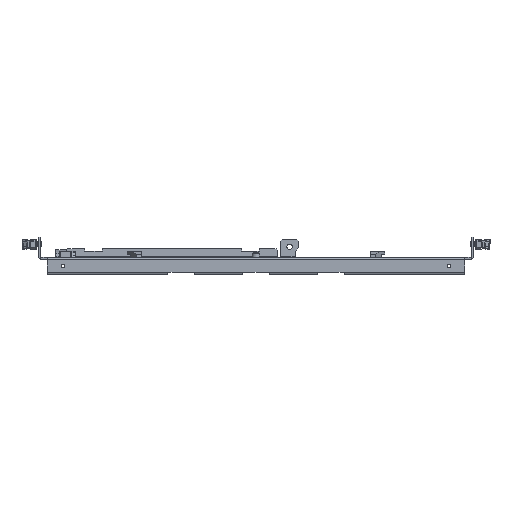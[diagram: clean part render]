
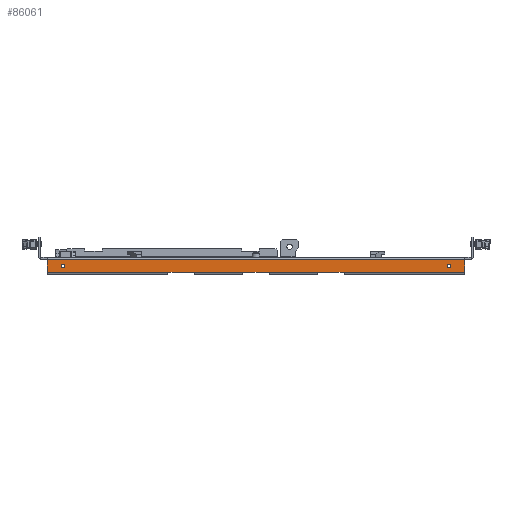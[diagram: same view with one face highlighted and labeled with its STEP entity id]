
A CAD part, front view. The second image highlights one B-rep face of the part: STEP entity #86061.
In plain terms, the highlighted planar face has unit normal (0, -1, 0).
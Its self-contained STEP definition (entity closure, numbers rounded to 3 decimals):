
#43836=CARTESIAN_POINT(' ',(239.5,-211.7,-2.6));
#43837=VERTEX_POINT(' ',#43836);
#43851=CARTESIAN_POINT(' ',(239.5,-211.7,-17.4));
#43856=DIRECTION(' ',(0.,0.,1.));
#43861=VECTOR(' ',#43856,1.);
#43866=LINE('',#43851,#43861);
#43871=CARTESIAN_POINT(' ',(239.5,-211.7,-17.4));
#43872=VERTEX_POINT(' ',#43871);
#43876=EDGE_CURVE(' ',#43872,#43837,#43866,.T.);
#44516=CARTESIAN_POINT(' ',(-239.5,-211.7,-17.4));
#44517=VERTEX_POINT(' ',#44516);
#44531=CARTESIAN_POINT(' ',(-239.5,-211.7,-2.6));
#44536=DIRECTION(' ',(0.,0.,-1.));
#44541=VECTOR(' ',#44536,1.);
#44546=LINE('',#44531,#44541);
#44551=CARTESIAN_POINT(' ',(-239.5,-211.7,-2.6));
#44552=VERTEX_POINT(' ',#44551);
#44556=EDGE_CURVE(' ',#44552,#44517,#44546,.T.);
#84561=CARTESIAN_POINT(' ',(-239.5,-211.7,-2.6));
#84566=DIRECTION(' ',(1.,0.,0.));
#84571=VECTOR(' ',#84566,1.);
#84576=LINE('',#84561,#84571);
#84581=EDGE_CURVE(' ',#44552,#43837,#84576,.T.);
#85591=DIRECTION(' ',(0.,-1.,0.));
#85596=CARTESIAN_POINT(' ',(-239.5,-211.7,-17.4));
#85601=DIRECTION(' ',(1.,0.,0.));
#85606=AXIS2_PLACEMENT_3D(' ',#85596,#85591,#85601);
#85611=PLANE('NONE',#85606);
#85616=ORIENTED_EDGE(' ',*,*,#84581,.F.);
#85621=ORIENTED_EDGE(' ',*,*,#44556,.T.);
#85626=CARTESIAN_POINT(' ',(-239.5,-211.7,-17.4));
#85631=DIRECTION(' ',(1.,0.,0.));
#85636=VECTOR(' ',#85631,1.);
#85641=LINE('',#85626,#85636);
#85646=CARTESIAN_POINT(' ',(-101.,-211.7,-17.4));
#85647=VERTEX_POINT(' ',#85646);
#85651=EDGE_CURVE(' ',#44517,#85647,#85641,.T.);
#85656=ORIENTED_EDGE(' ',*,*,#85651,.T.);
#85661=CARTESIAN_POINT(' ',(-71.,-211.7,-17.4));
#85666=DIRECTION(' ',(-1.,0.,0.));
#85671=VECTOR(' ',#85666,1.);
#85676=LINE('',#85661,#85671);
#85681=CARTESIAN_POINT(' ',(-71.,-211.7,-17.4));
#85682=VERTEX_POINT(' ',#85681);
#85686=EDGE_CURVE(' ',#85682,#85647,#85676,.T.);
#85691=ORIENTED_EDGE(' ',*,*,#85686,.F.);
#85696=CARTESIAN_POINT(' ',(-71.,-211.7,-17.4));
#85701=DIRECTION(' ',(1.,0.,0.));
#85706=VECTOR(' ',#85701,1.);
#85711=LINE('',#85696,#85706);
#85716=CARTESIAN_POINT(' ',(-15.,-211.7,-17.4));
#85717=VERTEX_POINT(' ',#85716);
#85721=EDGE_CURVE(' ',#85682,#85717,#85711,.T.);
#85726=ORIENTED_EDGE(' ',*,*,#85721,.T.);
#85731=CARTESIAN_POINT(' ',(15.,-211.7,-17.4));
#85736=DIRECTION(' ',(-1.,0.,0.));
#85741=VECTOR(' ',#85736,1.);
#85746=LINE('',#85731,#85741);
#85751=CARTESIAN_POINT(' ',(15.,-211.7,-17.4));
#85752=VERTEX_POINT(' ',#85751);
#85756=EDGE_CURVE(' ',#85752,#85717,#85746,.T.);
#85761=ORIENTED_EDGE(' ',*,*,#85756,.F.);
#85766=CARTESIAN_POINT(' ',(15.,-211.7,-17.4));
#85771=DIRECTION(' ',(1.,0.,0.));
#85776=VECTOR(' ',#85771,1.);
#85781=LINE('',#85766,#85776);
#85786=CARTESIAN_POINT(' ',(71.,-211.7,-17.4));
#85787=VERTEX_POINT(' ',#85786);
#85791=EDGE_CURVE(' ',#85752,#85787,#85781,.T.);
#85796=ORIENTED_EDGE(' ',*,*,#85791,.T.);
#85801=CARTESIAN_POINT(' ',(101.,-211.7,-17.4));
#85806=DIRECTION(' ',(-1.,0.,0.));
#85811=VECTOR(' ',#85806,1.);
#85816=LINE('',#85801,#85811);
#85821=CARTESIAN_POINT(' ',(101.,-211.7,-17.4));
#85822=VERTEX_POINT(' ',#85821);
#85826=EDGE_CURVE(' ',#85822,#85787,#85816,.T.);
#85831=ORIENTED_EDGE(' ',*,*,#85826,.F.);
#85836=CARTESIAN_POINT(' ',(101.,-211.7,-17.4));
#85841=DIRECTION(' ',(1.,0.,0.));
#85846=VECTOR(' ',#85841,1.);
#85851=LINE('',#85836,#85846);
#85856=EDGE_CURVE(' ',#85822,#43872,#85851,.T.);
#85861=ORIENTED_EDGE(' ',*,*,#85856,.T.);
#85866=ORIENTED_EDGE(' ',*,*,#43876,.T.);
#85871=EDGE_LOOP(' ',(#85616,#85621,#85656,#85691,#85726,#85761,#85796,#85831,#85861,#85866));
#85876=FACE_OUTER_BOUND(' ',#85871,.T.);
#85881=CARTESIAN_POINT(' ',(-221.5,-211.7,-10.));
#85886=DIRECTION(' ',(-0.,-1.,0.));
#85891=DIRECTION(' ',(0.,0.,-1.));
#85896=AXIS2_PLACEMENT_3D(' ',#85881,#85886,#85891);
#85901=CIRCLE('',#85896,2.2);
#85906=CARTESIAN_POINT(' ',(-221.5,-211.7,-12.2));
#85907=VERTEX_POINT(' ',#85906);
#85911=CARTESIAN_POINT(' ',(-221.5,-211.7,-7.8));
#85912=VERTEX_POINT(' ',#85911);
#85916=EDGE_CURVE(' ',#85907,#85912,#85901,.T.);
#85921=ORIENTED_EDGE(' ',*,*,#85916,.F.);
#85926=CARTESIAN_POINT(' ',(-221.5,-211.7,-10.));
#85931=DIRECTION(' ',(0.,-1.,0.));
#85936=DIRECTION(' ',(0.,0.,1.));
#85941=AXIS2_PLACEMENT_3D(' ',#85926,#85931,#85936);
#85946=CIRCLE('',#85941,2.2);
#85951=EDGE_CURVE(' ',#85912,#85907,#85946,.T.);
#85956=ORIENTED_EDGE(' ',*,*,#85951,.F.);
#85961=EDGE_LOOP(' ',(#85921,#85956));
#85966=FACE_BOUND(' ',#85961,.T.);
#85971=CARTESIAN_POINT(' ',(221.5,-211.7,-10.));
#85976=DIRECTION(' ',(-0.,-1.,0.));
#85981=DIRECTION(' ',(0.,0.,-1.));
#85986=AXIS2_PLACEMENT_3D(' ',#85971,#85976,#85981);
#85991=CIRCLE('',#85986,2.2);
#85996=CARTESIAN_POINT(' ',(221.5,-211.7,-12.2));
#85997=VERTEX_POINT(' ',#85996);
#86001=CARTESIAN_POINT(' ',(221.5,-211.7,-7.8));
#86002=VERTEX_POINT(' ',#86001);
#86006=EDGE_CURVE(' ',#85997,#86002,#85991,.T.);
#86011=ORIENTED_EDGE(' ',*,*,#86006,.F.);
#86016=CARTESIAN_POINT(' ',(221.5,-211.7,-10.));
#86021=DIRECTION(' ',(0.,-1.,0.));
#86026=DIRECTION(' ',(0.,0.,1.));
#86031=AXIS2_PLACEMENT_3D(' ',#86016,#86021,#86026);
#86036=CIRCLE('',#86031,2.2);
#86041=EDGE_CURVE(' ',#86002,#85997,#86036,.T.);
#86046=ORIENTED_EDGE(' ',*,*,#86041,.F.);
#86051=EDGE_LOOP(' ',(#86011,#86046));
#86056=FACE_BOUND(' ',#86051,.T.);
#86061=ADVANCED_FACE('NONE',(#85876,#85966,#86056),#85611,.T.);
